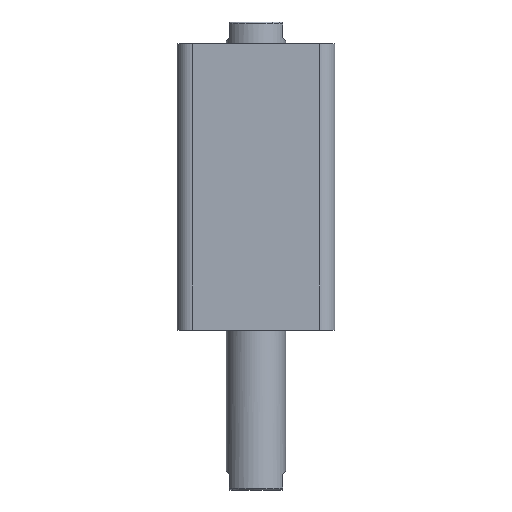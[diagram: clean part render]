
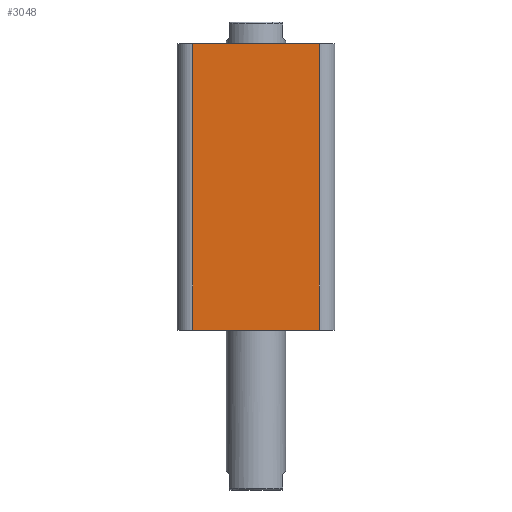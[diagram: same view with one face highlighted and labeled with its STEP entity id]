
A CAD part, front view. The second image highlights one B-rep face of the part: STEP entity #3048.
In plain terms, the highlighted planar face has unit normal (0, -1, 0).
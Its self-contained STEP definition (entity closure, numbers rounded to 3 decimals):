
#130 = EDGE_LOOP ( 'NONE', ( #3251, #3252, #3253, #3254 ) ) ;
#441 = FACE_OUTER_BOUND ( 'NONE', #130, .T. ) ;
#1071 = AXIS2_PLACEMENT_3D ( 'NONE', #2205, #2209, #2210 ) ;
#1226 = EDGE_CURVE ( 'NONE', #1502, #1501, #1802, .T. ) ;
#1501 = VERTEX_POINT ( 'NONE', #2597 ) ;
#1502 = VERTEX_POINT ( 'NONE', #2598 ) ;
#1635 = VERTEX_POINT ( 'NONE', #2629 ) ;
#1646 = VERTEX_POINT ( 'NONE', #2636 ) ;
#1802 = LINE ( 'NONE', #2540, #1805 ) ;
#1805 = VECTOR ( 'NONE', #2541, 1000. ) ;
#1814 = LINE ( 'NONE', #2670, #1817 ) ;
#1817 = VECTOR ( 'NONE', #2671, 1000. ) ;
#1828 = LINE ( 'NONE', #2705, #1832 ) ;
#1832 = VECTOR ( 'NONE', #2701, 1000. ) ;
#1833 = LINE ( 'NONE', #2714, #1835 ) ;
#1835 = VECTOR ( 'NONE', #2709, 1000. ) ;
#2205 = CARTESIAN_POINT ( 'NONE',  ( -40., -40., 145. ) ) ;
#2207 = PLANE ( 'NONE',  #1071 ) ;
#2209 = DIRECTION ( 'NONE',  ( 0., 1., 0. ) ) ;
#2210 = DIRECTION ( 'NONE',  ( 0., 0., 1. ) ) ;
#2389 = EDGE_CURVE ( 'NONE', #1646, #1635, #1814, .T. ) ;
#2402 = EDGE_CURVE ( 'NONE', #1646, #1502, #1828, .T. ) ;
#2405 = EDGE_CURVE ( 'NONE', #1501, #1635, #1833, .T. ) ;
#2540 = CARTESIAN_POINT ( 'NONE',  ( -40., -40., 0. ) ) ;
#2541 = DIRECTION ( 'NONE',  ( 1., 0., 0. ) ) ;
#2597 = CARTESIAN_POINT ( 'NONE',  ( 32., -40., 0. ) ) ;
#2598 = CARTESIAN_POINT ( 'NONE',  ( -32., -40., 0. ) ) ;
#2629 = CARTESIAN_POINT ( 'NONE',  ( 32., -40., 145. ) ) ;
#2636 = CARTESIAN_POINT ( 'NONE',  ( -32., -40., 145. ) ) ;
#2670 = CARTESIAN_POINT ( 'NONE',  ( -40., -40., 145. ) ) ;
#2671 = DIRECTION ( 'NONE',  ( 1., 0., 0. ) ) ;
#2701 = DIRECTION ( 'NONE',  ( 0., 0., -1. ) ) ;
#2705 = CARTESIAN_POINT ( 'NONE',  ( -32., -40., 145. ) ) ;
#2709 = DIRECTION ( 'NONE',  ( 0., 0., 1. ) ) ;
#2714 = CARTESIAN_POINT ( 'NONE',  ( 32., -40., 145. ) ) ;
#3048 = ADVANCED_FACE ( 'NONE', ( #441 ), #2207, .F. ) ;
#3251 = ORIENTED_EDGE ( 'NONE', *, *, #2389, .F. ) ;
#3252 = ORIENTED_EDGE ( 'NONE', *, *, #2402, .T. ) ;
#3253 = ORIENTED_EDGE ( 'NONE', *, *, #1226, .T. ) ;
#3254 = ORIENTED_EDGE ( 'NONE', *, *, #2405, .T. ) ;
